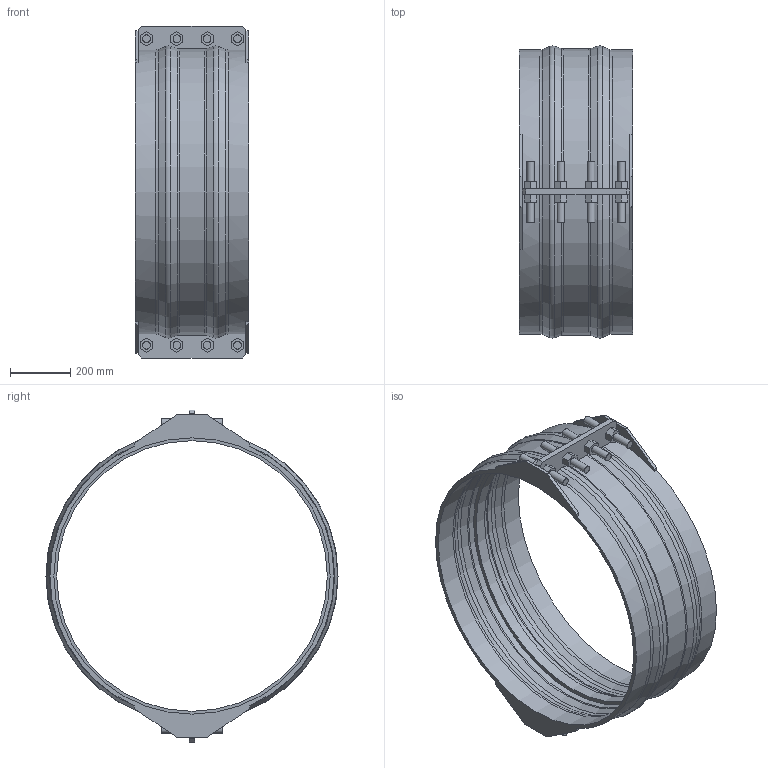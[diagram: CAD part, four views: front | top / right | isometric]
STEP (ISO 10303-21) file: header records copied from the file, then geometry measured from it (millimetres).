
FILE_DESCRIPTION(/* description */ ('VIC SS RESTRAINED COUPLING STYLE 233S (FLEX) (BRD)','CAx-IF Rec.Pracs.---Representation and Presentation of Product Manufacturing Information (PMI)---4.0---2014-10-13'),/* implementation_level */ '2;1');
FILE_NAME(/* name */ 'C:\Users\kkamble\AppData\Roaming\Autodesk\ApplicationPlugins\Back Up\Victaulic_VBSP_Coupling Flexible Restrained_Style 233S (BRD)\Victaulic_VBSP_Coupling Flexible Restrained_Style 233S (BRD)_200psi_36 (900).stp',/* time_stamp */ '2020-09-22T18:29:36+06:00',/* author */ ('Vjadhav'),/* organization */ ('Victaulic'),/* preprocessor_version */ 'ST-DEVELOPER v17.2',/* originating_system */ 'Autodesk Inventor 2019',/* authorisation */ '');
FILE_SCHEMA (('AP242_MANAGED_MODEL_BASED_3D_ENGINEERING_MIM_LF { 1 0 10303 442 1 1 4 }'));
Length unit declared in the file: inch
Products named in the file (1): Style_233S_Type_2_200psi-36.0
Bounding box: 374.65 x 966.49 x 1098.55 mm (x, y, z)
Volume: 18242579.6 mm3; surface area: 2765491 mm2
Topology: 1 solids, 1 shells, 247 faces, 641 edges, 430 vertices
Faces by surface type: plane 174, cylinder 43, torus 18, cone 12
Full cylindrical faces by diameter (mm): 25.4 x16, 895.35 x1, 914.4 x2, 920.75 x2
Entity records: 8080 total; most frequent: CARTESIAN_POINT 1560, ORIENTED_EDGE 1282, DIRECTION 1275, EDGE_CURVE 641, LINE 449, VECTOR 449, VERTEX_POINT 430, AXIS2_PLACEMENT_3D 413
